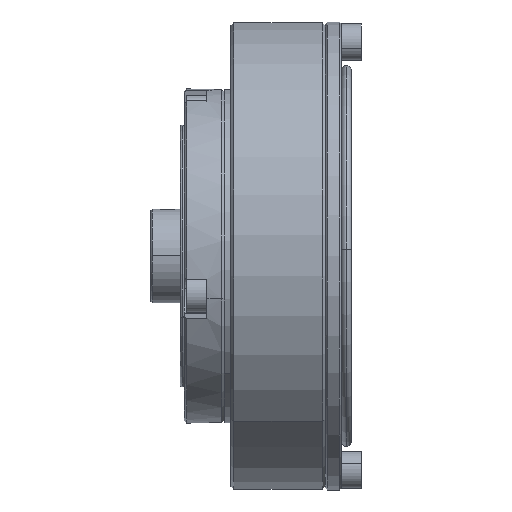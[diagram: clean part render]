
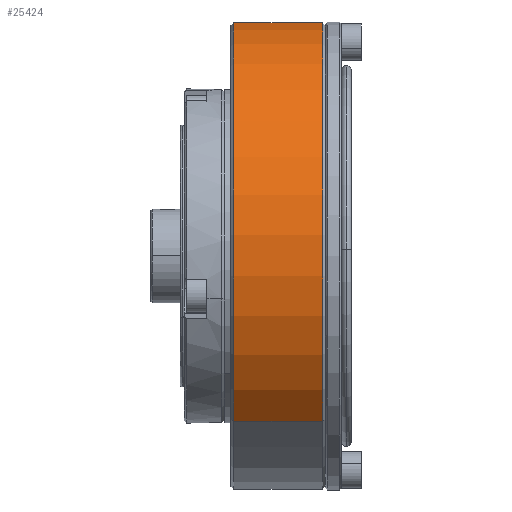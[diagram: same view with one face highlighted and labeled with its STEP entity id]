
A CAD part, top view. The second image highlights one B-rep face of the part: STEP entity #25424.
In plain terms, the highlighted cylindrical face has radius 35 mm (diameter 70 mm), a partial arc.
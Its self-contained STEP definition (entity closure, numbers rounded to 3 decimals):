
#292 = EDGE_CURVE ( 'NONE', #20059, #27175, #9885, .T. ) ;
#328 = ORIENTED_EDGE ( 'NONE', *, *, #23891, .T. ) ;
#873 = CARTESIAN_POINT ( 'NONE',  ( 7.2, 0., 0. ) ) ;
#1002 = EDGE_CURVE ( 'NONE', #29082, #27175, #19803, .T. ) ;
#1053 = ORIENTED_EDGE ( 'NONE', *, *, #292, .T. ) ;
#2790 = AXIS2_PLACEMENT_3D ( 'NONE', #14888, #26274, #12702 ) ;
#4864 = DIRECTION ( 'NONE',  ( -1., 0., 0. ) ) ;
#5352 = EDGE_CURVE ( 'NONE', #29082, #5529, #20746, .T. ) ;
#5529 = VERTEX_POINT ( 'NONE', #9771 ) ;
#9311 = DIRECTION ( 'NONE',  ( 1., 0., 0. ) ) ;
#9771 = CARTESIAN_POINT ( 'NONE',  ( -6.1, -24.749, 24.749 ) ) ;
#9885 = CIRCLE ( 'NONE', #17625, 35. ) ;
#12702 = DIRECTION ( 'NONE',  ( 0., 0.707, -0.707 ) ) ;
#13031 = VECTOR ( 'NONE', #28559, 1000. ) ;
#13129 = AXIS2_PLACEMENT_3D ( 'NONE', #22904, #9311, #25143 ) ;
#13186 = CARTESIAN_POINT ( 'NONE',  ( -6.1, 24.749, -24.749 ) ) ;
#14888 = CARTESIAN_POINT ( 'NONE',  ( 63.914, 0., 0. ) ) ;
#14936 = ORIENTED_EDGE ( 'NONE', *, *, #1002, .F. ) ;
#15009 = CARTESIAN_POINT ( 'NONE',  ( 63.914, 24.749, -24.749 ) ) ;
#15601 = FACE_OUTER_BOUND ( 'NONE', #25516, .T. ) ;
#15625 = LINE ( 'NONE', #18511, #25534 ) ;
#17625 = AXIS2_PLACEMENT_3D ( 'NONE', #873, #4864, #25402 ) ;
#18511 = CARTESIAN_POINT ( 'NONE',  ( 63.914, -24.749, 24.749 ) ) ;
#18663 = CARTESIAN_POINT ( 'NONE',  ( 7.2, -24.749, 24.749 ) ) ;
#19803 = LINE ( 'NONE', #15009, #13031 ) ;
#20059 = VERTEX_POINT ( 'NONE', #18663 ) ;
#20243 = CYLINDRICAL_SURFACE ( 'NONE', #2790, 35. ) ;
#20746 = CIRCLE ( 'NONE', #13129, 35. ) ;
#20800 = DIRECTION ( 'NONE',  ( 1., 0., 0. ) ) ;
#22904 = CARTESIAN_POINT ( 'NONE',  ( -6.1, 0., 0. ) ) ;
#23891 = EDGE_CURVE ( 'NONE', #5529, #20059, #15625, .T. ) ;
#25143 = DIRECTION ( 'NONE',  ( 0., 0.707, -0.707 ) ) ;
#25312 = CARTESIAN_POINT ( 'NONE',  ( 7.2, 24.749, -24.749 ) ) ;
#25402 = DIRECTION ( 'NONE',  ( 0., -0.707, 0.707 ) ) ;
#25424 = ADVANCED_FACE ( 'NONE', ( #15601 ), #20243, .T. ) ;
#25433 = ORIENTED_EDGE ( 'NONE', *, *, #5352, .T. ) ;
#25516 = EDGE_LOOP ( 'NONE', ( #25433, #328, #1053, #14936 ) ) ;
#25534 = VECTOR ( 'NONE', #20800, 1000. ) ;
#26274 = DIRECTION ( 'NONE',  ( 1., 0., 0. ) ) ;
#27175 = VERTEX_POINT ( 'NONE', #25312 ) ;
#28559 = DIRECTION ( 'NONE',  ( 1., 0., 0. ) ) ;
#29082 = VERTEX_POINT ( 'NONE', #13186 ) ;
